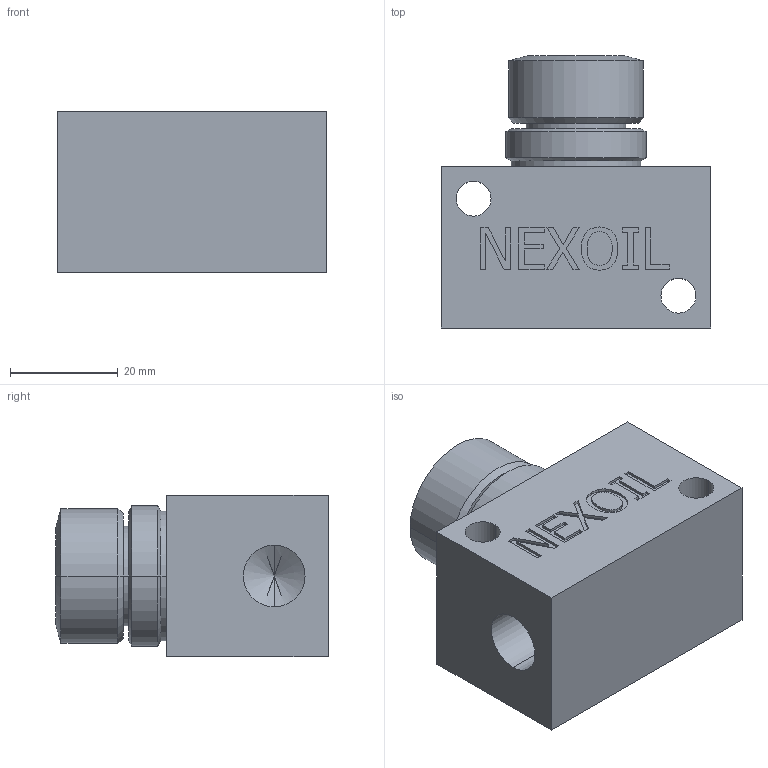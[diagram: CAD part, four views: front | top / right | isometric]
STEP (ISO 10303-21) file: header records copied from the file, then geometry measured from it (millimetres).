
FILE_DESCRIPTION((''),'2;1');
FILE_NAME('SPRAY_VALVE_7117005_3D.stp','2017-06-06T17:36:37',(''),(''),'Mechanical Desktop 2008','Mechanical Desktop 2008',', , ');
FILE_SCHEMA(('AUTOMOTIVE_DESIGN { 1 2 10303 214 1 1 1 1 }'));
Length unit declared in the file: millimetre
Products named in the file (2): 7117005_3D; PART1
Assembly tree (1 placements, depth 2):
  7117005_3D
    PART1
Bounding box: 50 x 50.5 x 30 mm (x, y, z)
Volume: 50034.6 mm3; surface area: 12009.2 mm2
Topology: 1 solids, 1 shells, 139 faces, 352 edges, 226 vertices
Faces by surface type: plane 71, bspline 28, cylinder 24, cone 16
Entity records: 4329 total; most frequent: CARTESIAN_POINT 1079, ORIENTED_EDGE 696, DIRECTION 574, EDGE_CURVE 348, VECTOR 236, LINE 236, VERTEX_POINT 226, AXIS2_PLACEMENT_3D 169
